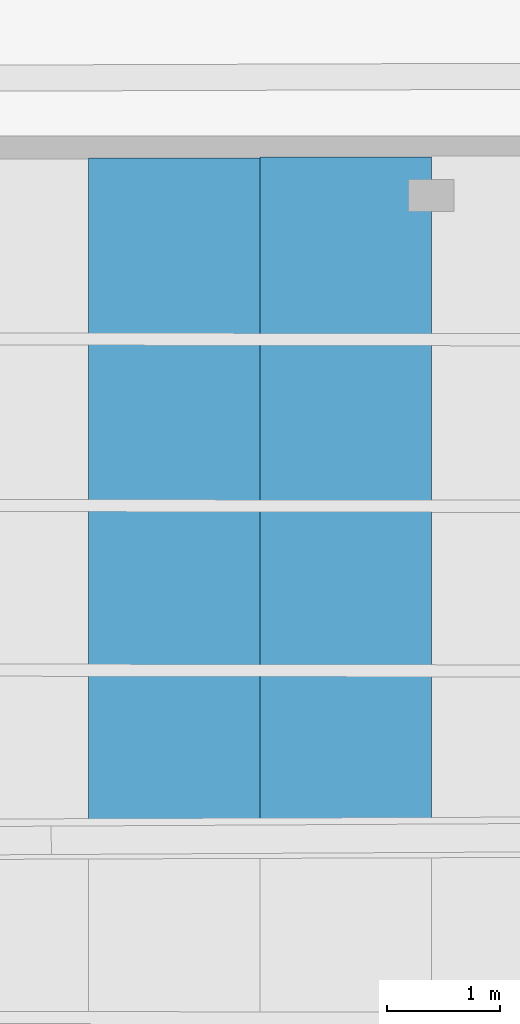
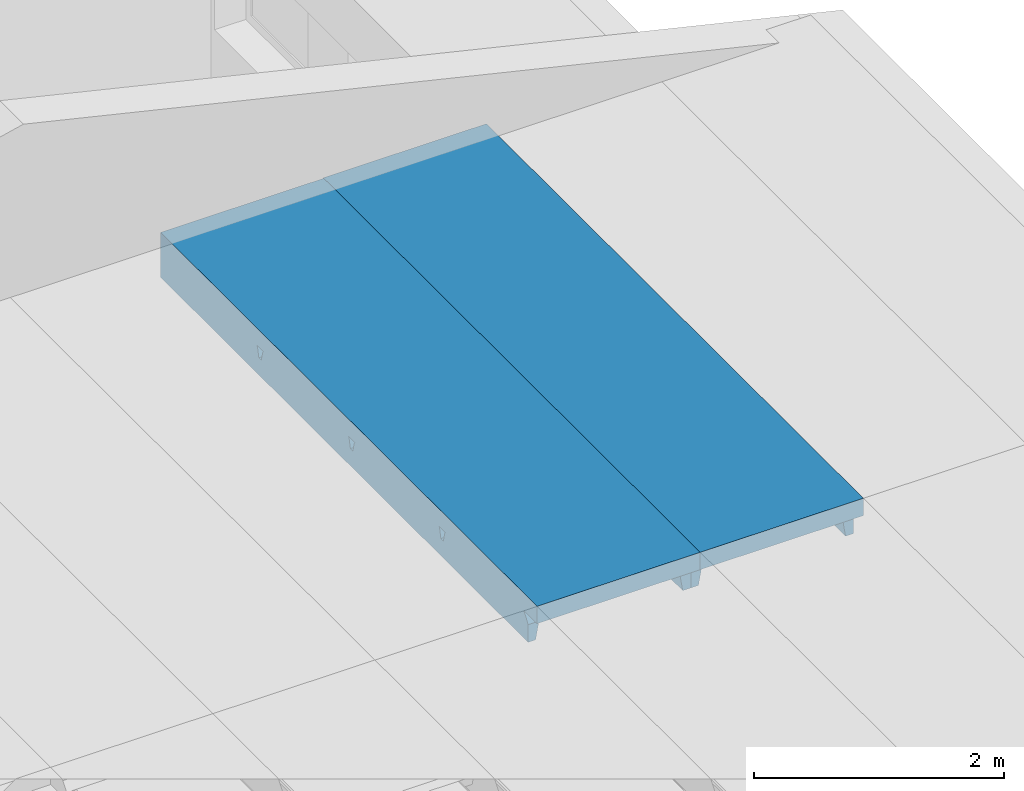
# One storey, part 60 of 301: 2 beams.
"""IFC2X3 building model written with IfcOpenShell, lengths in millimetres."""

from ifc_helpers import new_model, entity, si_unit, converted_unit, derived_unit, money_unit, direction, frame, origin_with_axes, place, context, subcontext, project, spatial, faceted_brep, material, type_object, element, save


model = new_model("IFC2X3")

# Units and contexts
model_context = context("Model", 3, precision=0.01, world=origin_with_axes(), true_north=direction((0.0, 1.0)))
body_context = subcontext(model_context, "Body", "Model", "MODEL_VIEW")
ifc_project = project(units=[si_unit("LENGTHUNIT", "METRE", prefix="MILLI"), si_unit("AREAUNIT", "SQUARE_METRE"), si_unit("VOLUMEUNIT", "CUBIC_METRE"), converted_unit("PLANEANGLEUNIT", "DEGREE", entity("IfcPlaneAngleMeasure", 0.0174532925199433), si_unit("PLANEANGLEUNIT", "RADIAN"), dimensions=[0, 0, 0, 0, 0, 0, 0]), money_unit("EUR"), converted_unit("TIMEUNIT", "Year", entity("IfcTimeMeasure", 31557600.0), si_unit("TIMEUNIT", "SECOND"), dimensions=[0, 0, 1, 0, 0, 0, 0]), si_unit("MASSUNIT", "GRAM", prefix="KILO"), si_unit("THERMODYNAMICTEMPERATUREUNIT", "DEGREE_CELSIUS"), si_unit("LUMINOUSINTENSITYUNIT", "LUMEN"), si_unit("ENERGYUNIT", "JOULE", prefix="MEGA"), derived_unit("THERMALCONDUCTANCEUNIT", [(si_unit("POWERUNIT", "WATT"), 1), (si_unit("LENGTHUNIT", "METRE"), -1), (si_unit("THERMODYNAMICTEMPERATUREUNIT", "KELVIN"), -1)]), derived_unit("SPECIFICHEATCAPACITYUNIT", [(si_unit("ENERGYUNIT", "JOULE"), 1), (si_unit("MASSUNIT", "GRAM", prefix="KILO"), -1), (si_unit("THERMODYNAMICTEMPERATUREUNIT", "KELVIN"), -1)]), derived_unit("MASSDENSITYUNIT", [(si_unit("MASSUNIT", "GRAM", prefix="KILO"), 1), (si_unit("VOLUMEUNIT", "CUBIC_METRE"), -1)])], contexts=[model_context])

# Site, building, storey
site_placement = place(None, frame((0.0, 0.0, 8650.0), z_axis=(0.0, 0.0, 1.0), x_axis=(1.0, 0.0, 0.0)))
site = spatial("IfcSite", under=ifc_project, at=site_placement, Name="43301:001:0844", CompositionType="ELEMENT")
building_placement = place(site_placement, origin_with_axes())
building = spatial("IfcBuilding", under=site, at=building_placement, Name="Kuressaare Ametikooli tuulikute mehaanikute õppekorpus", CompositionType="ELEMENT")
storey_placement = place(building_placement, origin_with_axes())
storey = spatial("IfcBuildingStorey", under=building, at=storey_placement, Name="1.korrus", CompositionType="ELEMENT", Elevation=0.0)

# Beams
ifc_material = material(Name="GENEERILINE - KONSTRUKTRIOON")
beam_type = type_object("IfcBeamType", Name="Precast Double Tee 2 1510 x 440", PredefinedType="NOTDEFINED")
beam_1_placement = place(storey_placement, frame((97980.87775377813, 62125.51027756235, 7100.000000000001), z_axis=(0.0, 0.0, 1.0), x_axis=(-1.0, 0.0, 0.0)))
element("IfcBeam", 1, at=beam_1_placement, inside=storey, type_object=beam_type, material=ifc_material, context=body_context, shape_type="Brep", body=[
    faceted_brep([(754.9999999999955, 0.0, -440.0001340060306), (754.9999999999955, 5889.193490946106, -440.0001340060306), (754.9999999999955, 5889.192968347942, -267.4324731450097), (754.9999999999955, 5863.600812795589, -222.3718133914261), (754.9999999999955, 5831.928130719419, -181.3563625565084), (754.9999999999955, 5820.965511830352, -169.8235046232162), (754.9999999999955, 6034.170784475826, -169.8235046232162), (754.9999999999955, 6034.170784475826, 0.0), (754.9999999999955, 0.0, 0.0), (754.9999999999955, 1640.280453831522, -175.39783429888), (754.9999999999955, 1635.705834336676, -184.1936973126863), (754.9999999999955, 1614.965848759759, -271.7709778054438), (754.9999999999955, 1574.965795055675, -271.7709778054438), (754.9999999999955, 1554.224847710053, -184.1935020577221), (754.9999999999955, 1549.65020780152, -175.3977593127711), (754.9999999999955, 1541.451416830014, -169.8234995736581), (754.9999999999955, 1648.479311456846, -169.8234995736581), (754.9999999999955, 3103.156007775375, -184.1936973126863), (754.9999999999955, 3082.416022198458, -271.7709778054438), (754.9999999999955, 3042.415968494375, -271.7709778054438), (754.9999999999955, 3021.675021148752, -184.1935020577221), (754.9999999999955, 3017.100381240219, -175.3977593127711), (754.9999999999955, 3008.901590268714, -169.8234995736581), (754.9999999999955, 3115.929484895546, -169.8234995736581), (754.9999999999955, 3107.730627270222, -175.39783429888), (754.9999999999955, 4533.206372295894, -271.7709778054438), (754.9999999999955, 4493.20631859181, -271.7709778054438), (754.9999999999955, 4472.465371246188, -184.1935020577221), (754.9999999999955, 4467.890731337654, -175.3977593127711), (754.9999999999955, 4459.691940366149, -169.8234995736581), (754.9999999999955, 4566.71983499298, -169.8234995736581), (754.9999999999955, 4558.520977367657, -175.39783429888), (754.9999999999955, 4553.94635787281, -184.1936973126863), (684.5333333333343, 0.0, -440.0001340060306), (684.5333333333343, 5888.939776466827, -440.0001340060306), (652.9146841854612, 5888.825411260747, -267.4324731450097), (644.6584606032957, 5863.203529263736, -222.3718133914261), (625.6051084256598, 5831.462245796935, -181.3563625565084), (642.4305280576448, 5853.805726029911, -210.2122455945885), (636.4790028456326, 5841.399113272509, -194.1736948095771), (594.211646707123, 5820.38659508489, -169.8235046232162), (625.4118792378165, 5831.245047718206, -181.1285984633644), (610.5576441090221, 5823.125418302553, -172.6428773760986), (594.211646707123, 6034.170784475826, -169.8235046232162), (593.6993855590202, 6034.170784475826, -169.7351493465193), (590.5789219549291, 6034.170784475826, -169.8234995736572), (-588.1481649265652, 6034.170784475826, -169.8235046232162), (-754.9999999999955, 6034.170784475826, -169.8235046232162), (-754.9999999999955, 6034.170784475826, 0.0), (-754.9999999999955, 0.0, 0.0), (636.4790028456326, 0.0, -194.1736948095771), (642.4305280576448, 0.0, -210.2122455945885), (-754.9999999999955, 0.0, -440.0001340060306), (-679.4999969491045, 0.0, -440.0001340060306), (-644.5028387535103, 0.0, -219.0380957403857), (-638.2645371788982, 0.0, -199.6996008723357), (-625.6043121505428, 0.0, -183.8058130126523), (-608.1505435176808, 0.0, -173.40101840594), (-588.1481649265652, 0.0, -169.8234995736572), (590.5789219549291, 0.0, -169.8234995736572), (593.6993855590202, 0.0, -169.7351493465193), (610.5576441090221, 0.0, -172.6428773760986), (625.4118792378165, 0.0, -181.1285984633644), (625.4118792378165, 1637.512305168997, -181.1285984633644), (628.0122301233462, 1635.913924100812, -184.1936973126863), (615.3801898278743, 1640.50924321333, -175.39783429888), (642.4305280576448, 1629.728604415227, -210.2122455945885), (653.7096051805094, 1615.131829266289, -271.7709778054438), (636.4790028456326, 1633.536594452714, -194.1736948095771), (653.7096051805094, 1575.131775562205, -271.7709778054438), (642.4305280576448, 1560.571322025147, -210.2122455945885), (636.4790028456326, 1556.782669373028, -194.1736948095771), (628.0120644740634, 1554.432937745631, -184.1935020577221), (615.3800585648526, 1549.878997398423, -175.3977593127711), (625.4118792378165, 1552.843151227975, -181.1285984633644), (594.2116174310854, 1541.714894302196, -169.8234995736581), (610.5576441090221, 1545.834935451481, -172.6428773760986), (594.2116174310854, 1648.742788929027, -169.8234995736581), (610.5576441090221, 1644.569198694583, -172.6428773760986), (653.7096051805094, 3082.582002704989, -271.7709778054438), (628.0122301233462, 3103.364097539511, -184.1936973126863), (636.4790028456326, 3100.986767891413, -194.1736948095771), (642.4305280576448, 3097.178777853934, -210.2122455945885), (653.7096051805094, 3042.581949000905, -271.7709778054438), (642.4305280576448, 3028.021495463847, -210.2122455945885), (636.4790028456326, 3024.232842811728, -194.1736948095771), (628.0120644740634, 3021.88311118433, -184.1935020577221), (625.4118792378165, 3020.293324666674, -181.1285984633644), (615.3800585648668, 3017.329170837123, -175.3977593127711), (610.5576441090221, 3013.28510889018, -172.6428773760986), (594.2116174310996, 3009.165067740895, -169.8234995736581), (594.2116174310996, 3116.192962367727, -169.8234995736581), (615.3801898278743, 3107.95941665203, -175.39783429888), (610.5576441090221, 3112.019372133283, -172.6428773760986), (625.4118792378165, 3104.962478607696, -181.1285984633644), (653.7096051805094, 4533.372352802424, -271.7709778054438), (653.7096051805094, 4493.37229909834, -271.7709778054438), (642.4305280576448, 4478.811845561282, -210.2122455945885), (636.4790028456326, 4475.023192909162, -194.1736948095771), (628.0120644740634, 4472.673461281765, -184.1935020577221), (625.4118792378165, 4471.08367476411, -181.1285984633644), (615.3800585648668, 4468.119520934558, -175.3977593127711), (610.5576441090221, 4464.075458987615, -172.6428773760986), (594.2116174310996, 4459.95541783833, -169.8234995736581), (594.2116174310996, 4566.983312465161, -169.8234995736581), (610.5576441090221, 4562.809722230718, -172.6428773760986), (615.3801898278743, 4558.749766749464, -175.39783429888), (625.4118792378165, 4555.752828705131, -181.1285984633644), (628.0122301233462, 4554.154447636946, -184.1936973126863), (636.4790028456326, 4551.777117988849, -194.1736948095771), (642.4305280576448, 4547.969127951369, -210.2122455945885), (-588.1481649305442, 3011.102553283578, -169.8234995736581), (-588.1481649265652, 3118.130447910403, -169.8234995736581), (-588.1481649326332, 4461.89290338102, -169.8234995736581), (-588.1481649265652, 4568.920798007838, -169.8234995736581), (-588.1481649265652, 5816.129521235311, -169.8235046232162), (-588.148164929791, 1543.652379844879, -169.8234995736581), (-588.1481649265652, 1650.680274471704, -169.8234995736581), (-754.9999999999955, 5815.528772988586, -169.8235046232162), (-754.9999999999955, 5826.491391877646, -181.3563625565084), (-754.9999999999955, 5858.164073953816, -222.3718133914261), (-754.9999999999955, 5883.756229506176, -267.4324731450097), (-754.9999999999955, 5883.756752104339, -440.0001340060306), (-754.9999999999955, 1556.69922413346, -184.1935020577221), (-754.9999999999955, 1577.440171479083, -271.7709778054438), (-754.9999999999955, 1617.440225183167, -271.7709778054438), (-754.9999999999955, 1638.180210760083, -184.1936973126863), (-754.9999999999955, 1642.75483025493, -175.39783429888), (-754.9999999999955, 1650.953687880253, -169.8234995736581), (-754.9999999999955, 1543.925793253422, -169.8234995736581), (-754.9999999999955, 1552.124584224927, -175.3977593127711), (-754.9999999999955, 3044.890344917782, -271.7709778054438), (-754.9999999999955, 3084.890398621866, -271.7709778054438), (-754.9999999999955, 3105.630384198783, -184.1936973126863), (-754.9999999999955, 3110.205003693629, -175.39783429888), (-754.9999999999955, 3118.403861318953, -169.8234995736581), (-754.9999999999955, 3011.375966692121, -169.8234995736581), (-754.9999999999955, 3019.574757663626, -175.3977593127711), (-754.9999999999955, 3024.14939757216, -184.1935020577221), (-754.9999999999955, 4535.680748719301, -271.7709778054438), (-754.9999999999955, 4556.420734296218, -184.1936973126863), (-754.9999999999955, 4560.995353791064, -175.39783429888), (-754.9999999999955, 4569.194211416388, -169.8234995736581), (-754.9999999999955, 4462.166316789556, -169.8234995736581), (-754.9999999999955, 4470.365107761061, -175.3977593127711), (-754.9999999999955, 4474.939747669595, -184.1935020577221), (-754.9999999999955, 4495.680695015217, -271.7709778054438), (-679.4999969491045, 5884.028589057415, -440.0001340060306), (-645.030850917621, 5858.560016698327, -222.3718133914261), (-644.5028387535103, 5855.987576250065, -219.0380957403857), (-644.5028387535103, 4547.987842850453, -219.0380957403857), (-652.8549567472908, 4535.513367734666, -271.7709778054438), (-652.8549567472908, 4495.513314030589, -271.7709778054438), (-644.5028387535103, 4483.01091508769, -219.0380957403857), (-644.5028387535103, 3097.197492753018, -219.0380957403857), (-652.8549567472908, 3084.72301763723, -271.7709778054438), (-652.8549567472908, 3044.722963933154, -271.7709778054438), (-644.5028387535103, 3032.220564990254, -219.0380957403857), (-644.5028387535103, 1629.747319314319, -219.0380957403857), (-652.8549567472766, 1617.272844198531, -271.7709778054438), (-652.8549567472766, 1577.272790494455, -271.7709778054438), (-644.5028387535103, 1564.770391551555, -219.0380957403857), (-652.1678010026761, 5884.126475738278, -267.4324731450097), (-638.2645371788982, 1560.180239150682, -199.6996008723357), (-625.6043121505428, 1556.285552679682, -183.8058130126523), (-625.9131265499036, 1556.48769465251, -184.1935020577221), (-608.1505435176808, 1548.947080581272, -173.40101840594), (-611.5000237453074, 1551.889436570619, -175.3977593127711), (-608.1505435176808, 3112.901329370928, -173.40101840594), (-608.1505435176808, 4467.187604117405, -173.40101840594), (-608.1505435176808, 5819.458127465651, -173.40101840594), (-608.1505435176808, 4563.691679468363, -173.40101840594), (-608.1505435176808, 1645.451155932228, -173.40101840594), (-608.1505435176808, 3016.397254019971, -173.40101840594), (-621.4954235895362, 5826.972073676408, -181.3563625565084), (-625.6043121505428, 5828.848778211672, -183.8058130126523), (-638.2645371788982, 5841.076591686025, -199.6996008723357), (-638.2645371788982, 1634.316824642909, -199.6996008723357), (-625.9132820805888, 1637.968681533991, -184.1936973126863), (-625.6043121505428, 1638.169909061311, -183.8058130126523), (-611.5001495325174, 1642.519682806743, -175.39783429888), (-638.2645371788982, 3101.766998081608, -199.6996008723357), (-625.9132820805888, 3105.41885497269, -184.1936973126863), (-625.6043121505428, 3105.620082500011, -183.8058130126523), (-611.5001495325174, 3109.969856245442, -175.39783429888), (-611.5000237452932, 3019.339610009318, -175.3977593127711), (-625.6043121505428, 3023.735726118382, -183.8058130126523), (-625.9131265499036, 3023.93786809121, -184.1935020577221), (-638.2645371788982, 3027.630412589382, -199.6996008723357), (-638.2645371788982, 4552.557348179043, -199.6996008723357), (-625.9132820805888, 4556.209205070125, -184.1936973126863), (-625.6043121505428, 4556.410432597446, -183.8058130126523), (-611.5001495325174, 4560.760206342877, -175.39783429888), (-611.5000237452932, 4470.129960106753, -175.3977593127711), (-625.6043121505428, 4474.526076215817, -183.8058130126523), (-625.9131265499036, 4474.728218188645, -184.1935020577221), (-638.2645371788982, 4478.420762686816, -199.6996008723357)], [[[0, 1, 2, 3, 4, 5, 6, 7, 8], [9, 10, 11, 12, 13, 14, 15, 16], [17, 18, 19, 20, 21, 22, 23, 24], [25, 26, 27, 28, 29, 30, 31, 32]], [[33, 34, 1, 0]], [[1, 34, 35, 2]], [[2, 35, 36, 3]], [[37, 4, 3, 36, 38, 39]], [[40, 5, 4, 37, 41, 42]], [[5, 40, 43, 6]], [[7, 6, 43, 44, 45, 46, 47, 48]], [[49, 8, 7, 48]], [[50, 51, 33, 0, 8, 49, 52, 53, 54, 55, 56, 57, 58, 59, 60, 61, 62]], [[63, 64, 10, 9, 65]], [[66, 67, 11, 10, 64, 68]], [[67, 69, 12, 11]], [[13, 12, 69, 70, 71, 72]], [[73, 14, 13, 72, 74]], [[75, 15, 14, 73, 76]], [[75, 77, 16, 15]], [[78, 65, 9, 16, 77]], [[79, 18, 17, 80, 81, 82]], [[83, 19, 18, 79]], [[19, 83, 84, 85, 86, 20]], [[21, 20, 86, 87, 88]], [[22, 21, 88, 89, 90]], [[91, 23, 22, 90]], [[92, 24, 23, 91, 93]], [[80, 17, 24, 92, 94]], [[26, 25, 95, 96]], [[96, 97, 98, 99, 27, 26]], [[27, 99, 100, 101, 28]], [[28, 101, 102, 103, 29]], [[30, 29, 103, 104]], [[31, 30, 104, 105, 106]], [[32, 31, 106, 107, 108]], [[25, 32, 108, 109, 110, 95]], [[97, 96, 95, 110, 38, 36, 35, 34, 33, 51, 70, 69, 67, 66, 84, 83, 79, 82]], [[39, 38, 110, 109]], [[39, 109, 108, 107, 41, 37]], [[41, 107, 106, 105, 42]], [[40, 42, 105, 104, 103, 102, 93, 91, 90, 89, 78, 77, 75, 76, 61, 60, 44, 43]], [[60, 59, 45, 44]], [[111, 112, 113, 114, 115, 46, 45, 59, 58, 116, 117]], [[115, 118, 47, 46]], [[48, 47, 118, 119, 120, 121, 122, 52, 49], [123, 124, 125, 126, 127, 128, 129, 130], [131, 132, 133, 134, 135, 136, 137, 138], [139, 140, 141, 142, 143, 144, 145, 146]], [[71, 70, 51, 50]], [[52, 122, 147, 53]], [[148, 149, 150, 151, 152, 153, 154, 155, 156, 157, 158, 159, 160, 161, 54, 53, 147, 162]], [[161, 163, 55, 54]], [[164, 56, 55, 163, 165]], [[166, 57, 56, 164, 167]], [[166, 116, 58, 57]], [[74, 62, 61, 76, 73]], [[71, 50, 62, 74, 72]], [[64, 63, 87, 86, 85, 68]], [[65, 78, 89, 88, 87, 63]], [[84, 66, 68, 85]], [[94, 100, 99, 98, 81, 80]], [[82, 81, 98, 97]], [[93, 102, 101, 100, 94, 92]], [[135, 112, 111, 136]], [[112, 168, 169, 113]], [[114, 113, 143, 142]], [[170, 115, 114, 171]], [[129, 128, 117, 116]], [[111, 117, 172, 173]], [[119, 118, 115, 170, 174]], [[174, 175, 176, 149, 148, 120, 119]], [[162, 121, 120, 148]], [[147, 122, 121, 162]], [[165, 163, 161, 160, 124, 123]], [[125, 124, 160, 159]], [[159, 158, 177, 178, 126, 125]], [[126, 178, 179, 180, 127]], [[127, 180, 172, 117, 128]], [[129, 116, 166, 167, 130]], [[130, 167, 164, 165, 123]], [[131, 156, 155, 132]], [[154, 181, 182, 133, 132, 155]], [[182, 183, 184, 134, 133]], [[184, 168, 112, 135, 134]], [[111, 173, 185, 137, 136]], [[185, 186, 187, 138, 137]], [[188, 157, 156, 131, 138, 187]], [[189, 190, 140, 139, 151, 150]], [[191, 192, 141, 140, 190]], [[171, 114, 142, 141, 192]], [[169, 193, 144, 143, 113]], [[194, 195, 145, 144, 193]], [[153, 152, 146, 145, 195, 196]], [[152, 151, 139, 146]], [[149, 176, 189, 150]], [[181, 154, 153, 196]], [[188, 177, 158, 157]], [[183, 194, 193, 169, 168, 184]], [[170, 171, 192, 191, 175, 174]], [[180, 179, 186, 185, 173, 172]], [[175, 191, 190, 189, 176]], [[178, 177, 188, 187, 186, 179]], [[181, 196, 195, 194, 183, 182]]]),
])
beam_2_placement = place(storey_placement, frame((99490.87775377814, 62133.80790612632, 7100.000000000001), z_axis=(0.0, 0.0, 1.0), x_axis=(-1.0, 0.0, 0.0)))
element("IfcBeam", 2, at=beam_2_placement, inside=storey, type_object=beam_type, material=ifc_material, context=body_context, shape_type="Brep", body=[
    faceted_brep([(754.9999999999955, 0.0, -440.0001340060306), (754.9999999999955, 5892.054380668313, -440.0001340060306), (754.9999999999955, 5892.053858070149, -267.4324731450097), (754.9999999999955, 5866.461702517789, -222.3718133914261), (754.9999999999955, 5834.789020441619, -181.3563625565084), (754.9999999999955, 5823.826401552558, -169.8235046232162), (754.9999999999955, 6042.432711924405, -169.8235046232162), (754.9999999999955, 6042.432711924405, 0.0), (754.9999999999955, 0.0, 0.0), (754.9999999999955, 1651.052458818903, -175.39783429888), (754.9999999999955, 1646.477839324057, -184.1936973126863), (754.9999999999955, 1625.73785374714, -271.7709778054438), (754.9999999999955, 1585.737800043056, -271.7709778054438), (754.9999999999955, 1564.996852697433, -184.1935020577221), (754.9999999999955, 1560.4222127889, -175.3977593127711), (754.9999999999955, 1552.223421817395, -169.8234995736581), (754.9999999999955, 1659.251316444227, -169.8234995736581), (754.9999999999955, 3113.928012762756, -184.1936973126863), (754.9999999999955, 3093.188027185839, -271.7709778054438), (754.9999999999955, 3053.187973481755, -271.7709778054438), (754.9999999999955, 3032.447026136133, -184.1935020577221), (754.9999999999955, 3027.8723862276, -175.3977593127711), (754.9999999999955, 3019.673595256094, -169.8234995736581), (754.9999999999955, 3126.701489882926, -169.8234995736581), (754.9999999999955, 3118.502632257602, -175.39783429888), (754.9999999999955, 4543.978377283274, -271.7709778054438), (754.9999999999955, 4503.97832357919, -271.7709778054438), (754.9999999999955, 4483.237376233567, -184.1935020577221), (754.9999999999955, 4478.662736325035, -175.3977593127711), (754.9999999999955, 4470.463945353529, -169.8234995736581), (754.9999999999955, 4577.491839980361, -169.8234995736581), (754.9999999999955, 4569.292982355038, -175.39783429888), (754.9999999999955, 4564.718362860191, -184.1936973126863), (684.5333333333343, 0.0, -440.0001340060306), (684.5333333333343, 5891.800666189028, -440.0001340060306), (652.9146841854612, 5891.686300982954, -267.4324731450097), (644.6584606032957, 5866.064418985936, -222.3718133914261), (625.6051084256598, 5834.323135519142, -181.3563625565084), (642.4305280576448, 5856.666615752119, -210.2122455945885), (636.4790028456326, 5844.260002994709, -194.1736948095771), (594.211646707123, 5823.247484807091, -169.8235046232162), (625.4118792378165, 5834.105937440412, -181.1285984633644), (610.5576441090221, 5825.986308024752, -172.6428773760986), (594.211646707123, 6042.432711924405, -169.8235046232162), (593.6993855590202, 6042.432711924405, -169.7351493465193), (590.5789219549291, 6042.432711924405, -169.8234995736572), (-588.1481649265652, 6042.432711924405, -169.8235046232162), (-754.9999999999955, 6042.432711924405, -169.8235046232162), (-754.9999999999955, 6042.432711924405, 0.0), (-754.9999999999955, 0.0, 0.0), (636.4790028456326, 0.0, -194.1736948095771), (642.4305280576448, 0.0, -210.2122455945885), (-754.9999999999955, 0.0, -440.0001340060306), (-679.4999969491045, 0.0, -440.0001340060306), (-644.5028387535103, 0.0, -219.0380957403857), (-638.2645371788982, 0.0, -199.6996008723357), (-625.6043121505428, 0.0, -183.8058130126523), (-608.1505435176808, 0.0, -173.40101840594), (-588.1481649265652, 0.0, -169.8234995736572), (590.5789219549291, 0.0, -169.8234995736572), (593.6993855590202, 0.0, -169.7351493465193), (610.5576441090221, 0.0, -172.6428773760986), (625.4118792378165, 0.0, -181.1285984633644), (625.4118792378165, 1648.28431015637, -181.1285984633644), (628.0122301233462, 1646.685929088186, -184.1936973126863), (615.3801898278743, 1651.281248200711, -175.39783429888), (642.4305280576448, 1640.500609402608, -210.2122455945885), (653.7096051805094, 1625.90383425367, -271.7709778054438), (636.4790028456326, 1644.308599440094, -194.1736948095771), (653.7096051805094, 1585.903780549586, -271.7709778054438), (642.4305280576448, 1571.343327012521, -210.2122455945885), (636.4790028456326, 1567.554674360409, -194.1736948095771), (628.0120644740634, 1565.204942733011, -184.1935020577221), (615.3800585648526, 1560.651002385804, -175.3977593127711), (625.4118792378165, 1563.615156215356, -181.1285984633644), (594.2116174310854, 1552.486899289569, -169.8234995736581), (610.5576441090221, 1556.606940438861, -172.6428773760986), (594.2116174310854, 1659.514793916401, -169.8234995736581), (610.5576441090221, 1655.341203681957, -172.6428773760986), (653.7096051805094, 3093.354007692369, -271.7709778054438), (628.0122301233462, 3114.136102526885, -184.1936973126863), (636.4790028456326, 3111.758772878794, -194.1736948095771), (642.4305280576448, 3107.950782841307, -210.2122455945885), (653.7096051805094, 3053.353953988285, -271.7709778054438), (642.4305280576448, 3038.79350045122, -210.2122455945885), (636.4790028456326, 3035.004847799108, -194.1736948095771), (628.0120644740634, 3032.655116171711, -184.1935020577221), (625.4118792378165, 3031.065329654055, -181.1285984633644), (615.3800585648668, 3028.101175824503, -175.3977593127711), (610.5576441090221, 3024.057113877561, -172.6428773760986), (594.2116174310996, 3019.937072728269, -169.8234995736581), (594.2116174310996, 3126.9649673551, -169.8234995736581), (615.3801898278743, 3118.73142163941, -175.39783429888), (610.5576441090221, 3122.791377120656, -172.6428773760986), (625.4118792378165, 3115.734483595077, -181.1285984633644), (653.7096051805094, 4544.144357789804, -271.7709778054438), (653.7096051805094, 4504.14430408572, -271.7709778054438), (642.4305280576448, 4489.583850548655, -210.2122455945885), (636.4790028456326, 4485.795197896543, -194.1736948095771), (628.0120644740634, 4483.445466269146, -184.1935020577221), (625.4118792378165, 4481.85567975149, -181.1285984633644), (615.3800585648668, 4478.891525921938, -175.3977593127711), (610.5576441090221, 4474.847463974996, -172.6428773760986), (594.2116174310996, 4470.727422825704, -169.8234995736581), (594.2116174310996, 4577.755317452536, -169.8234995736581), (610.5576441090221, 4573.581727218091, -172.6428773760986), (615.3801898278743, 4569.521771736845, -175.39783429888), (625.4118792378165, 4566.524833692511, -181.1285984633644), (628.0122301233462, 4564.926452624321, -184.1936973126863), (636.4790028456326, 4562.549122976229, -194.1736948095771), (642.4305280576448, 4558.741132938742, -210.2122455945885), (-588.1481649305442, 3021.874558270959, -169.8234995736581), (-588.1481649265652, 3128.902452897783, -169.8234995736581), (-588.1481649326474, 4472.664908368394, -169.8234995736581), (-588.1481649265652, 4579.692802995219, -169.8234995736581), (-588.1481649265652, 5818.990410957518, -169.8235046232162), (-588.1481649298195, 1554.424384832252, -169.8234995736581), (-588.1481649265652, 1661.452279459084, -169.8234995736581), (-754.9999999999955, 5818.389662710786, -169.8235046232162), (-754.9999999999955, 5829.352281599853, -181.3563625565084), (-754.9999999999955, 5861.024963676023, -222.3718133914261), (-754.9999999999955, 5886.617119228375, -267.4324731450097), (-754.9999999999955, 5886.617641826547, -440.0001340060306), (-754.9999999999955, 1567.471229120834, -184.1935020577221), (-754.9999999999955, 1588.212176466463, -271.7709778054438), (-754.9999999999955, 1628.21223017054, -271.7709778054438), (-754.9999999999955, 1648.952215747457, -184.1936973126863), (-754.9999999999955, 1653.526835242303, -175.39783429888), (-754.9999999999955, 1661.725692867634, -169.8234995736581), (-754.9999999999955, 1554.697798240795, -169.8234995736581), (-754.9999999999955, 1562.896589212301, -175.3977593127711), (-754.9999999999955, 3055.662349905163, -271.7709778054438), (-754.9999999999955, 3095.662403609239, -271.7709778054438), (-754.9999999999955, 3116.402389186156, -184.1936973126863), (-754.9999999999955, 3120.977008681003, -175.39783429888), (-754.9999999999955, 3129.175866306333, -169.8234995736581), (-754.9999999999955, 3022.147971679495, -169.8234995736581), (-754.9999999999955, 3030.346762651, -175.3977593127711), (-754.9999999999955, 3034.921402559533, -184.1935020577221), (-754.9999999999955, 4546.452753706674, -271.7709778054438), (-754.9999999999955, 4567.192739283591, -184.1936973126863), (-754.9999999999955, 4571.767358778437, -175.39783429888), (-754.9999999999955, 4579.966216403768, -169.8234995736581), (-754.9999999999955, 4472.93832177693, -169.8234995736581), (-754.9999999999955, 4481.137112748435, -175.3977593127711), (-754.9999999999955, 4485.711752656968, -184.1935020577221), (-754.9999999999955, 4506.452700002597, -271.7709778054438), (-679.4999969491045, 5886.889478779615, -440.0001340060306), (-645.030850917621, 5861.420906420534, -222.3718133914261), (-644.5028387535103, 5858.848465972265, -219.0380957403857), (-644.5028387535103, 4558.759847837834, -219.0380957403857), (-652.8549567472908, 4546.285372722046, -271.7709778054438), (-652.8549567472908, 4506.285319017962, -271.7709778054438), (-644.5028387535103, 4493.782920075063, -219.0380957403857), (-644.5028387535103, 3107.969497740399, -219.0380957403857), (-652.8549567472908, 3095.495022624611, -271.7709778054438), (-652.8549567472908, 3055.494968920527, -271.7709778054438), (-644.5028387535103, 3042.992569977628, -219.0380957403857), (-644.5028387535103, 1640.519324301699, -219.0380957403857), (-652.8549567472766, 1628.044849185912, -271.7709778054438), (-652.8549567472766, 1588.044795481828, -271.7709778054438), (-644.5028387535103, 1575.542396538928, -219.0380957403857), (-652.1678010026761, 5886.987365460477, -267.4324731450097), (-638.2645371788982, 1570.952244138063, -199.6996008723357), (-625.6043121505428, 1567.057557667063, -183.8058130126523), (-625.9131265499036, 1567.259699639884, -184.1935020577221), (-608.1505435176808, 1559.719085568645, -173.40101840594), (-611.5000237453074, 1562.661441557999, -175.3977593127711), (-608.1505435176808, 3123.673334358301, -173.40101840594), (-608.1505435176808, 4477.95960910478, -173.40101840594), (-608.1505435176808, 5822.319017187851, -173.40101840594), (-608.1505435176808, 4574.463684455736, -173.40101840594), (-608.1505435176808, 1656.223160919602, -173.40101840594), (-608.1505435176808, 3027.169259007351, -173.40101840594), (-621.4954235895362, 5829.832963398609, -181.3563625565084), (-625.6043121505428, 5831.709667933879, -183.8058130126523), (-638.2645371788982, 5843.937481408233, -199.6996008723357), (-638.2645371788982, 1645.088829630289, -199.6996008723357), (-625.9132820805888, 1648.740686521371, -184.1936973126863), (-625.6043121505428, 1648.941914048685, -183.8058130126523), (-611.5001495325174, 1653.291687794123, -175.39783429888), (-638.2645371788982, 3112.539003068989, -199.6996008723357), (-625.9132820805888, 3116.190859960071, -184.1936973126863), (-625.6043121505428, 3116.392087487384, -183.8058130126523), (-611.5001495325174, 3120.741861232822, -175.39783429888), (-611.5000237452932, 3030.111614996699, -175.3977593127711), (-625.6043121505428, 3034.507731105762, -183.8058130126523), (-625.9131265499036, 3034.709873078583, -184.1935020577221), (-638.2645371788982, 3038.402417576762, -199.6996008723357), (-638.2645371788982, 4563.329353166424, -199.6996008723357), (-625.9132820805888, 4566.981210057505, -184.1936973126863), (-625.6043121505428, 4567.182437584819, -183.8058130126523), (-611.5001495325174, 4571.532211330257, -175.39783429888), (-611.5000237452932, 4480.901965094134, -175.3977593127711), (-625.6043121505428, 4485.298081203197, -183.8058130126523), (-625.9131265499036, 4485.500223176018, -184.1935020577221), (-638.2645371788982, 4489.192767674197, -199.6996008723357)], [[[0, 1, 2, 3, 4, 5, 6, 7, 8], [9, 10, 11, 12, 13, 14, 15, 16], [17, 18, 19, 20, 21, 22, 23, 24], [25, 26, 27, 28, 29, 30, 31, 32]], [[33, 34, 1, 0]], [[1, 34, 35, 2]], [[2, 35, 36, 3]], [[37, 4, 3, 36, 38, 39]], [[40, 5, 4, 37, 41, 42]], [[5, 40, 43, 6]], [[7, 6, 43, 44, 45, 46, 47, 48]], [[49, 8, 7, 48]], [[50, 51, 33, 0, 8, 49, 52, 53, 54, 55, 56, 57, 58, 59, 60, 61, 62]], [[63, 64, 10, 9, 65]], [[66, 67, 11, 10, 64, 68]], [[67, 69, 12, 11]], [[13, 12, 69, 70, 71, 72]], [[73, 14, 13, 72, 74]], [[75, 15, 14, 73, 76]], [[75, 77, 16, 15]], [[78, 65, 9, 16, 77]], [[79, 18, 17, 80, 81, 82]], [[83, 19, 18, 79]], [[19, 83, 84, 85, 86, 20]], [[21, 20, 86, 87, 88]], [[22, 21, 88, 89, 90]], [[91, 23, 22, 90]], [[92, 24, 23, 91, 93]], [[80, 17, 24, 92, 94]], [[26, 25, 95, 96]], [[96, 97, 98, 99, 27, 26]], [[27, 99, 100, 101, 28]], [[28, 101, 102, 103, 29]], [[30, 29, 103, 104]], [[31, 30, 104, 105, 106]], [[32, 31, 106, 107, 108]], [[25, 32, 108, 109, 110, 95]], [[97, 96, 95, 110, 38, 36, 35, 34, 33, 51, 70, 69, 67, 66, 84, 83, 79, 82]], [[39, 38, 110, 109]], [[39, 109, 108, 107, 41, 37]], [[41, 107, 106, 105, 42]], [[40, 42, 105, 104, 103, 102, 93, 91, 90, 89, 78, 77, 75, 76, 61, 60, 44, 43]], [[60, 59, 45, 44]], [[111, 112, 113, 114, 115, 46, 45, 59, 58, 116, 117]], [[115, 118, 47, 46]], [[48, 47, 118, 119, 120, 121, 122, 52, 49], [123, 124, 125, 126, 127, 128, 129, 130], [131, 132, 133, 134, 135, 136, 137, 138], [139, 140, 141, 142, 143, 144, 145, 146]], [[71, 70, 51, 50]], [[52, 122, 147, 53]], [[148, 149, 150, 151, 152, 153, 154, 155, 156, 157, 158, 159, 160, 161, 54, 53, 147, 162]], [[161, 163, 55, 54]], [[164, 56, 55, 163, 165]], [[166, 57, 56, 164, 167]], [[166, 116, 58, 57]], [[74, 62, 61, 76, 73]], [[71, 50, 62, 74, 72]], [[64, 63, 87, 86, 85, 68]], [[65, 78, 89, 88, 87, 63]], [[84, 66, 68, 85]], [[94, 100, 99, 98, 81, 80]], [[82, 81, 98, 97]], [[93, 102, 101, 100, 94, 92]], [[135, 112, 111, 136]], [[112, 168, 169, 113]], [[114, 113, 143, 142]], [[170, 115, 114, 171]], [[129, 128, 117, 116]], [[111, 117, 172, 173]], [[119, 118, 115, 170, 174]], [[174, 175, 176, 149, 148, 120, 119]], [[162, 121, 120, 148]], [[147, 122, 121, 162]], [[165, 163, 161, 160, 124, 123]], [[125, 124, 160, 159]], [[159, 158, 177, 178, 126, 125]], [[126, 178, 179, 180, 127]], [[127, 180, 172, 117, 128]], [[129, 116, 166, 167, 130]], [[130, 167, 164, 165, 123]], [[131, 156, 155, 132]], [[154, 181, 182, 133, 132, 155]], [[182, 183, 184, 134, 133]], [[184, 168, 112, 135, 134]], [[111, 173, 185, 137, 136]], [[185, 186, 187, 138, 137]], [[188, 157, 156, 131, 138, 187]], [[189, 190, 140, 139, 151, 150]], [[191, 192, 141, 140, 190]], [[171, 114, 142, 141, 192]], [[169, 193, 144, 143, 113]], [[194, 195, 145, 144, 193]], [[153, 152, 146, 145, 195, 196]], [[152, 151, 139, 146]], [[149, 176, 189, 150]], [[181, 154, 153, 196]], [[188, 177, 158, 157]], [[183, 194, 193, 169, 168, 184]], [[170, 171, 192, 191, 175, 174]], [[180, 179, 186, 185, 173, 172]], [[175, 191, 190, 189, 176]], [[178, 177, 188, 187, 186, 179]], [[181, 196, 195, 194, 183, 182]]]),
])

save(model, "model.ifc")
